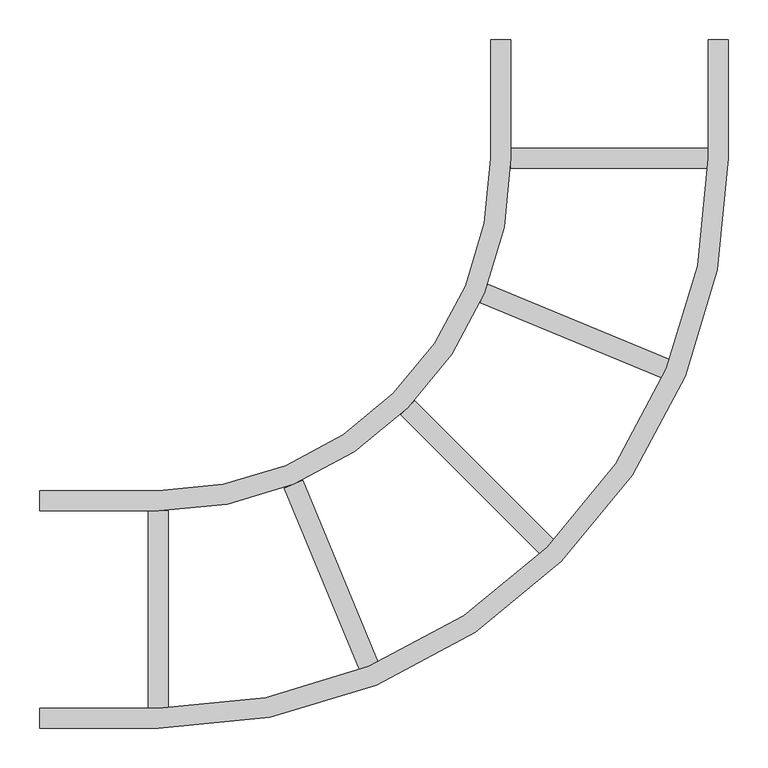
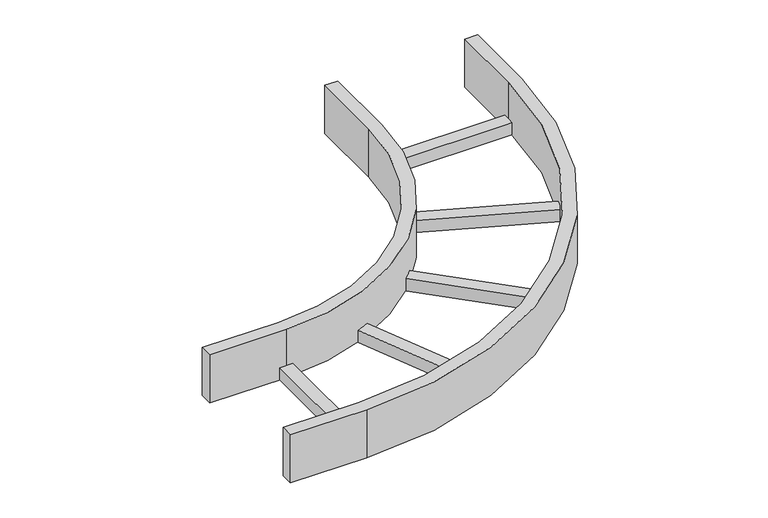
"""IFC4 building model written with IfcOpenShell, lengths in millimetres: cable carrier fitting geometry, BAKS_LD_BEND_Horizontal bend_LDV : LDVP_H100."""

from ifc_helpers import new_model, si_unit, point, frame, frame_2d, origin, place, context, project, spatial, polyline, circle_curve, trimmed, segment, composite_curve, outline, extrude, source, transform, mapped, element, save


def cable_carrier_fitting_aff088c4(model_context):
    return source(origin(), model_context, "Body", "SweptSolid", [
        extrude(outline(polyline([(-163.3641358, 387.8195292), (-153.6439766, 411.2860693), (76.5868029, 315.9213579), (66.8666437, 292.4548178), (-163.3641358, 387.8195292)])), frame((0.0, 0.0, -50.0), z_axis=(0.0, 0.0, 1.0), x_axis=(1.0, 0.0, 0.0)), (0.0, 0.0, 1.0), 25.4),
        extrude(outline(polyline([(-411.2860693, 153.6439766), (-387.8195292, 163.3641358), (-292.4548178, -66.8666437), (-315.9213579, -76.5868029), (-411.2860693, 153.6439766)])), frame((0.0, 0.0, -50.0), z_axis=(0.0, 0.0, 1.0), x_axis=(1.0, 0.0, 0.0)), (0.0, 0.0, 1.0), 25.4),
        extrude(outline(polyline([(-124.6, 557.3), (-124.6, 582.7), (124.6, 582.7), (124.6, 557.3), (-124.6, 557.3)])), frame((0.0, 0.0, -50.0), z_axis=(0.0, 0.0, 1.0), x_axis=(1.0, 0.0, 0.0)), (0.0, 0.0, 1.0), 25.4),
        extrude(outline(polyline([(-582.7, 124.6), (-557.3, 124.6), (-557.3, -124.6), (-582.7, -124.6), (-582.7, 124.6)])), frame((0.0, 0.0, -50.0), z_axis=(0.0, 0.0, 1.0), x_axis=(1.0, 0.0, 0.0)), (0.0, 0.0, 1.0), 25.4),
        extrude(outline(polyline([(-264.0348958, 246.0743835), (-246.0743835, 264.0348958), (-69.8633737, 87.8238859), (-87.8238859, 69.8633737), (-264.0348958, 246.0743835)])), frame((0.0, 0.0, -50.0), z_axis=(0.0, 0.0, 1.0), x_axis=(1.0, 0.0, 0.0)), (0.0, 0.0, 1.0), 25.4),
        extrude(outline(composite_curve([segment(polyline([(-720.0, -150.0), (-720.0, -124.6), (-570.0, -124.6)]), True, "CONTINUOUS"), segment(trimmed(circle_curve(frame_2d((-570.0, 570.0)), 694.6), [point((-570.0, -124.6))], [point((124.6, 570.0))], True, "CARTESIAN"), True, "CONTINUOUS"), segment(polyline([(124.6, 570.0), (124.6, 720.0), (150.0, 720.0), (150.0, 570.0)]), True, "CONTINUOUS"), segment(trimmed(circle_curve(frame_2d((-570.0, 570.0)), 720.0), [point((150.0, 570.0))], [point((-570.0, -150.0))], False, "CARTESIAN"), True, "CONTINUOUS"), segment(polyline([(-570.0, -150.0), (-720.0, -150.0)]), True, "CONTINUOUS")], self_intersect=False)), frame((0.0, 0.0, -50.0), z_axis=(0.0, 0.0, 1.0), x_axis=(1.0, 0.0, 0.0)), (0.0, 0.0, 1.0), 100.0),
        extrude(outline(composite_curve([segment(polyline([(-720.0, 124.6), (-720.0, 150.0), (-570.0, 150.0)]), True, "CONTINUOUS"), segment(trimmed(circle_curve(frame_2d((-570.0, 570.0)), 420.0), [point((-570.0, 150.0))], [point((-150.0, 570.0))], True, "CARTESIAN"), True, "CONTINUOUS"), segment(polyline([(-150.0, 570.0), (-150.0, 720.0), (-124.6, 720.0), (-124.6, 570.0)]), True, "CONTINUOUS"), segment(trimmed(circle_curve(frame_2d((-570.0, 570.0)), 445.4), [point((-124.6, 570.0))], [point((-570.0, 124.6))], False, "CARTESIAN"), True, "CONTINUOUS"), segment(polyline([(-570.0, 124.6), (-720.0, 124.6)]), True, "CONTINUOUS")], self_intersect=False)), frame((0.0, 0.0, -50.0), z_axis=(0.0, 0.0, 1.0), x_axis=(1.0, 0.0, 0.0)), (0.0, 0.0, 1.0), 100.0),
    ])


if __name__ == "__main__":
    model = new_model("IFC4")
    model_context = context("Model", 3, world=origin())
    ifc_project = project(units=[si_unit("LENGTHUNIT", "METRE", prefix="MILLI")], contexts=[model_context])
    site = spatial("IfcSite", under=ifc_project)
    building = spatial("IfcBuilding", under=site)
    placement = place(None, origin())
    cable_carrier_fitting_shape = cable_carrier_fitting_aff088c4(model_context)
    element("IfcCableCarrierFitting", 1, ObjectType="BAKS_LD_BEND_Horizontal bend_LDV : LDVP_H100", at=placement, inside=building, context=model_context, shape_type="MappedRepresentation", body=[
        mapped(cable_carrier_fitting_shape, transform((0.0, 0.0, 0.0), x_axis=(1.0, 0.0, 0.0), y_axis=(0.0, 1.0, 0.0), z_axis=(0.0, 0.0, 1.0))),
    ])
    save(model, "model.ifc")
